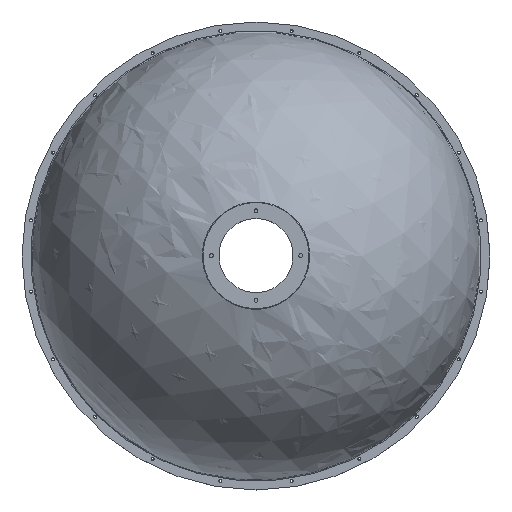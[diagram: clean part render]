
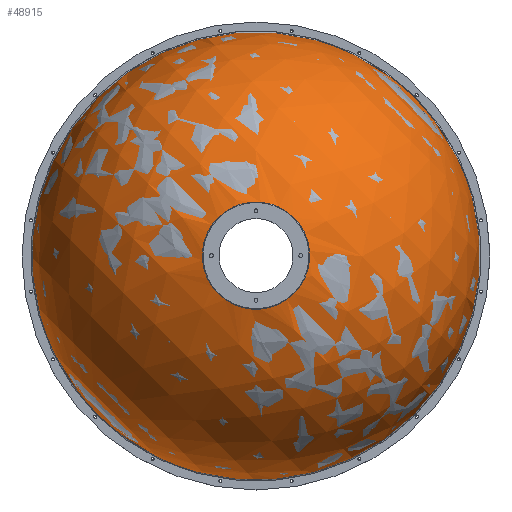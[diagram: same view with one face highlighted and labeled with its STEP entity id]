
A CAD part, top view. The second image highlights one B-rep face of the part: STEP entity #48915.
In plain terms, the highlighted spherical face has radius 175 mm.
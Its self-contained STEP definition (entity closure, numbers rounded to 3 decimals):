
#48469=CARTESIAN_POINT('',(-29.685,29.685,178.89));
#48470=VERTEX_POINT('',#48469);
#48471=CARTESIAN_POINT('',(0.,0.,178.89));
#48472=DIRECTION('',(0.0,0.0,1.));
#48473=DIRECTION('',(-0.707,0.707,0.0));
#48474=AXIS2_PLACEMENT_3D('',#48471,#48472,#48473);
#48475=CIRCLE('',#48474,41.981);
#48476=EDGE_CURVE('',#48470,#48470,#48475,.T.);
#48892=CARTESIAN_POINT('',(-123.736,123.736,10.989));
#48893=VERTEX_POINT('',#48892);
#48894=CARTESIAN_POINT('',(0.,0.,10.989));
#48895=DIRECTION('',(0.0,0.0,-1.));
#48896=DIRECTION('',(0.707,-0.707,0.0));
#48897=AXIS2_PLACEMENT_3D('',#48894,#48895,#48896);
#48898=CIRCLE('',#48897,174.989);
#48899=EDGE_CURVE('',#48893,#48893,#48898,.T.);
#48904=CARTESIAN_POINT('',(0.,0.,9.0));
#48905=DIRECTION('',(-0.707,-0.707,0.0));
#48906=DIRECTION('',(0.707,-0.707,0.0));
#48907=AXIS2_PLACEMENT_3D('',#48904,#48905,#48906);
#48908=SPHERICAL_SURFACE('',#48907,175.0);
#48909=ORIENTED_EDGE('',*,*,#48476,.F.);
#48910=EDGE_LOOP('',(#48909));
#48911=FACE_OUTER_BOUND('',#48910,.T.);
#48912=ORIENTED_EDGE('',*,*,#48899,.F.);
#48913=EDGE_LOOP('',(#48912));
#48914=FACE_BOUND('',#48913,.T.);
#48915=ADVANCED_FACE('',(#48911,#48914),#48908,.T.);
